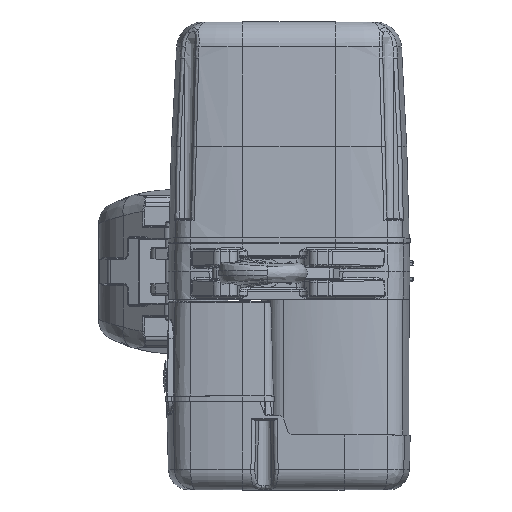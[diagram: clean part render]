
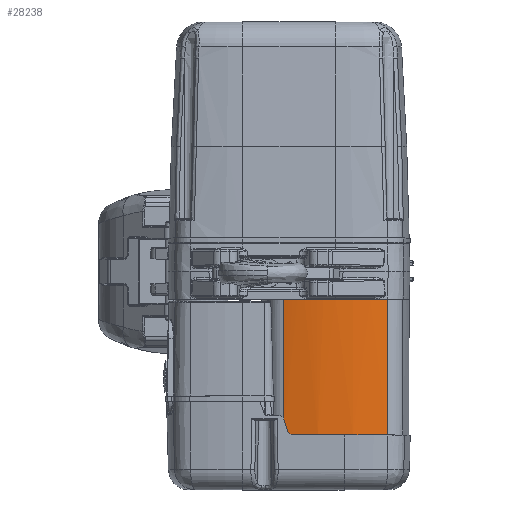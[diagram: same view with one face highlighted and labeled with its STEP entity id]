
A CAD part, top view. The second image highlights one B-rep face of the part: STEP entity #28238.
In plain terms, the highlighted cylindrical face has radius 210 mm (diameter 420 mm), a partial arc.
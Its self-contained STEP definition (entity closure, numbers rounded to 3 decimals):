
#3222=CIRCLE('',#30092,210.);
#3244=CIRCLE('',#30121,210.);
#3535=CIRCLE('',#30706,210.);
#3685=CIRCLE('',#31028,210.);
#4342=CYLINDRICAL_SURFACE('',#31027,210.);
#6390=FACE_OUTER_BOUND('',#8142,.T.);
#8142=EDGE_LOOP('',(#24963,#24964,#24965,#24966,#24967,#24968,#24969,#24970,
#24971));
#9499=LINE('',#61820,#10699);
#9500=LINE('',#61824,#10700);
#10699=VECTOR('',#37434,128.841);
#10700=VECTOR('',#37439,128.5);
#11324=B_SPLINE_CURVE_WITH_KNOTS('',3,(#52576,#52577,#52578,#52579,#52580,
#52581,#52582,#52583),.UNSPECIFIED.,.F.,.F.,(4,2,2,4),(-0.126,
-0.062,-0.029,0.),.UNSPECIFIED.);
#11325=B_SPLINE_CURVE_WITH_KNOTS('',3,(#52602,#52603,#52604,#52605,#52606,
#52607),.UNSPECIFIED.,.F.,.F.,(4,2,4),(-0.633,-0.317,
0.),.UNSPECIFIED.);
#11542=B_SPLINE_CURVE_WITH_KNOTS('',3,(#58015,#58016,#58017,#58018,#58019,
#58020,#58021,#58022),.UNSPECIFIED.,.F.,.F.,(4,2,2,4),(-4.893,
-4.533,-4.175,-3.816),.UNSPECIFIED.);
#13140=VERTEX_POINT('',#52410);
#13141=VERTEX_POINT('',#52412);
#13184=VERTEX_POINT('',#52575);
#13185=VERTEX_POINT('',#52586);
#13186=VERTEX_POINT('',#52601);
#13630=VERTEX_POINT('',#58014);
#13683=VERTEX_POINT('',#58606);
#13928=VERTEX_POINT('',#61818);
#13929=VERTEX_POINT('',#61822);
#16400=EDGE_CURVE('',#13140,#13141,#3222,.T.);
#16444=EDGE_CURVE('',#13141,#13184,#11324,.T.);
#16446=EDGE_CURVE('',#13184,#13185,#3244,.T.);
#16448=EDGE_CURVE('',#13185,#13186,#11325,.T.);
#17195=EDGE_CURVE('',#13186,#13630,#11542,.T.);
#17274=EDGE_CURVE('',#13630,#13683,#3535,.T.);
#17699=EDGE_CURVE('',#13928,#13683,#9499,.T.);
#17700=EDGE_CURVE('',#13929,#13928,#3685,.T.);
#17701=EDGE_CURVE('',#13140,#13929,#9500,.T.);
#24963=ORIENTED_EDGE('',*,*,#17700,.T.);
#24964=ORIENTED_EDGE('',*,*,#17699,.T.);
#24965=ORIENTED_EDGE('',*,*,#17274,.F.);
#24966=ORIENTED_EDGE('',*,*,#17195,.F.);
#24967=ORIENTED_EDGE('',*,*,#16448,.F.);
#24968=ORIENTED_EDGE('',*,*,#16446,.F.);
#24969=ORIENTED_EDGE('',*,*,#16444,.F.);
#24970=ORIENTED_EDGE('',*,*,#16400,.F.);
#24971=ORIENTED_EDGE('',*,*,#17701,.T.);
#28238=ADVANCED_FACE('',(#6390),#4342,.T.);
#30092=AXIS2_PLACEMENT_3D('',#52413,#35247,#35248);
#30121=AXIS2_PLACEMENT_3D('',#52587,#35314,#35315);
#30706=AXIS2_PLACEMENT_3D('',#58618,#36669,#36670);
#31027=AXIS2_PLACEMENT_3D('',#61821,#37435,#37436);
#31028=AXIS2_PLACEMENT_3D('',#61823,#37437,#37438);
#35247=DIRECTION('center_axis',(0.,-1.,0.));
#35248=DIRECTION('ref_axis',(0.119,0.,-0.993));
#35314=DIRECTION('center_axis',(0.,-1.,0.));
#35315=DIRECTION('ref_axis',(0.119,0.,-0.993));
#36669=DIRECTION('center_axis',(0.,-1.,0.));
#36670=DIRECTION('ref_axis',(0.119,0.,-0.993));
#37434=DIRECTION('',(0.,-1.,0.));
#37435=DIRECTION('center_axis',(0.,1.,0.));
#37436=DIRECTION('ref_axis',(0.119,0.,-0.993));
#37437=DIRECTION('center_axis',(0.,-1.,0.));
#37438=DIRECTION('ref_axis',(0.119,0.,-0.993));
#37439=DIRECTION('',(0.,1.,0.));
#52410=CARTESIAN_POINT('',(-4.124,25.,-64.887));
#52412=CARTESIAN_POINT('',(-17.213,25.,-62.159));
#52413=CARTESIAN_POINT('Origin',(-53.5,25.,-269.));
#52575=CARTESIAN_POINT('',(-18.45,25.043,-61.946));
#52576=CARTESIAN_POINT('Ctrl Pts',(-17.213,25.,-62.159));
#52577=CARTESIAN_POINT('Ctrl Pts',(-17.418,25.,-62.123));
#52578=CARTESIAN_POINT('Ctrl Pts',(-17.626,25.012,-62.087));
#52579=CARTESIAN_POINT('Ctrl Pts',(-17.953,25.029,-62.03));
#52580=CARTESIAN_POINT('Ctrl Pts',(-18.055,25.034,-62.013));
#52581=CARTESIAN_POINT('Ctrl Pts',(-18.26,25.041,-61.978));
#52582=CARTESIAN_POINT('Ctrl Pts',(-18.353,25.043,-61.962));
#52583=CARTESIAN_POINT('Ctrl Pts',(-18.45,25.043,-61.946));
#52586=CARTESIAN_POINT('',(-35.627,25.043,-59.762));
#52587=CARTESIAN_POINT('Origin',(-53.5,25.043,-269.));
#52601=CARTESIAN_POINT('',(-41.945,24.975,-59.318));
#52602=CARTESIAN_POINT('Ctrl Pts',(-35.627,25.043,-59.762));
#52603=CARTESIAN_POINT('Ctrl Pts',(-36.68,25.043,-59.672));
#52604=CARTESIAN_POINT('Ctrl Pts',(-37.731,25.036,-59.59));
#52605=CARTESIAN_POINT('Ctrl Pts',(-39.838,25.011,-59.442));
#52606=CARTESIAN_POINT('Ctrl Pts',(-40.891,24.994,-59.376));
#52607=CARTESIAN_POINT('Ctrl Pts',(-41.945,24.975,-59.318));
#58014=CARTESIAN_POINT('',(-53.5,24.659,-59.));
#58015=CARTESIAN_POINT('Ctrl Pts',(-41.945,24.975,-59.318));
#58016=CARTESIAN_POINT('Ctrl Pts',(-43.233,24.952,-59.247));
#58017=CARTESIAN_POINT('Ctrl Pts',(-44.551,24.914,-59.187));
#58018=CARTESIAN_POINT('Ctrl Pts',(-47.18,24.828,-59.091));
#58019=CARTESIAN_POINT('Ctrl Pts',(-48.491,24.778,-59.056));
#58020=CARTESIAN_POINT('Ctrl Pts',(-51.054,24.693,-59.01));
#58021=CARTESIAN_POINT('Ctrl Pts',(-52.306,24.659,-59.));
#58022=CARTESIAN_POINT('Ctrl Pts',(-53.5,24.659,-59.));
#58606=CARTESIAN_POINT('',(-102.876,24.659,-64.887));
#58618=CARTESIAN_POINT('Origin',(-53.5,24.659,-269.));
#61818=CARTESIAN_POINT('',(-102.876,153.5,-64.887));
#61820=CARTESIAN_POINT('',(-102.876,28.,-64.887));
#61821=CARTESIAN_POINT('Origin',(-53.5,28.,-269.));
#61822=CARTESIAN_POINT('',(-4.124,153.5,-64.887));
#61823=CARTESIAN_POINT('Origin',(-53.5,153.5,-269.));
#61824=CARTESIAN_POINT('',(-4.124,28.,-64.887));
